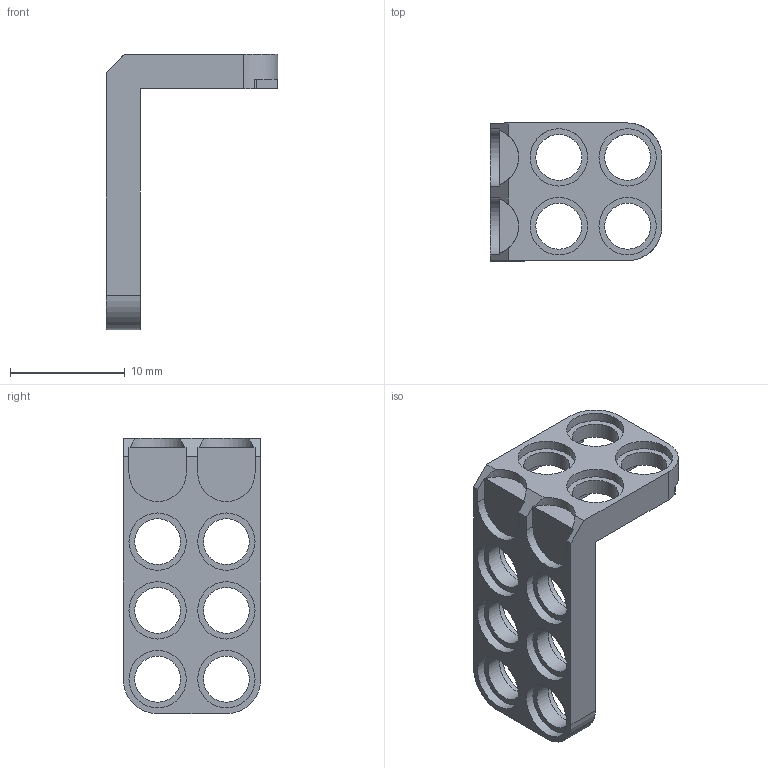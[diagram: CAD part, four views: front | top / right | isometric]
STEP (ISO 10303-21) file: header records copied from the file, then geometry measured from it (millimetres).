
FILE_DESCRIPTION(/* description */ ('STEP AP242','CAx-IF Rec.Pracs.---Representation and Presentation of Product Manufacturing Information (PMI)---4.0---2014-10-13','CAx-IF Rec.Pracs.---3D Tessellated Geometry---0.4---2014-09-14','2;1'),/* implementation_level */ '2;1');
FILE_NAME(/* name */ 'TurtleBot3 Burger - M_PR07_A01_BRACKET_2 (1)',/* time_stamp */ '2025-02-06T06:24:11Z',/* author */ (''),/* organization */ (''),/* preprocessor_version */ 'ST-DEVELOPER v20',/* originating_system */ 'ONSHAPE BY PTC INC, 1.193',/* authorisation */ ' ');
FILE_SCHEMA (('AP242_MANAGED_MODEL_BASED_3D_ENGINEERING_MIM_LF { 1 0 10303 442 1 1 4 }'));
Length unit declared in the file: metre
Products named in the file (1): M_PR07_A01_BRACKET_2
Bounding box: 15 x 12 x 24 mm (x, y, z)
Volume: 708.6 mm3; surface area: 1282.2 mm2
Topology: 1 solids, 1 shells, 79 faces, 183 edges, 122 vertices
Faces by surface type: plane 41, cylinder 38
Full cylindrical faces by diameter (mm): 4 x10, 5 x16
Entity records: 2741 total; most frequent: DIRECTION 387, CARTESIAN_POINT 375, ORIENTED_EDGE 306, AXIS2_PLACEMENT_3D 158, EDGE_CURVE 153, EDGE_LOOP 141, FACE_BOUND 141, VERTEX_POINT 118
